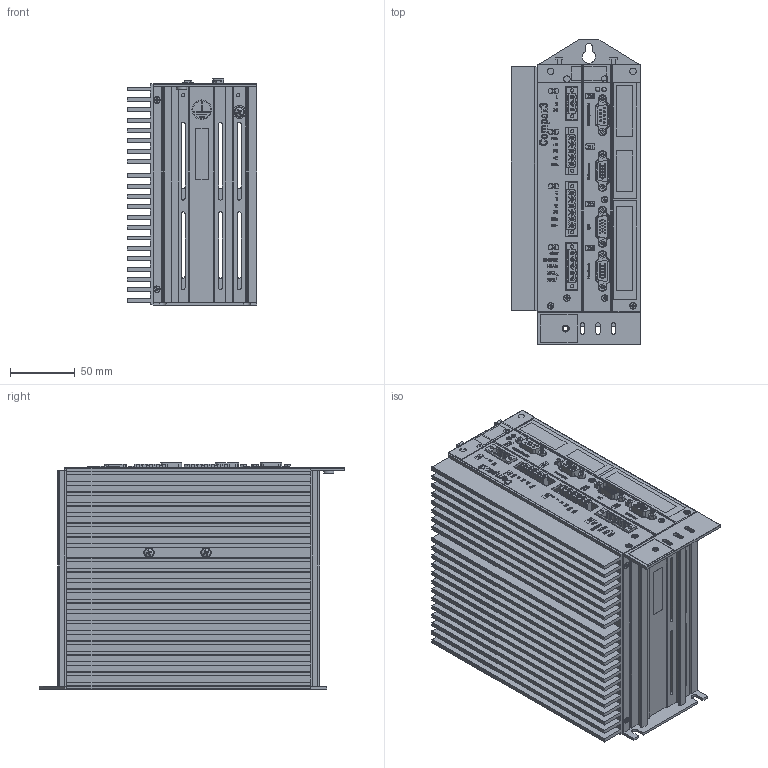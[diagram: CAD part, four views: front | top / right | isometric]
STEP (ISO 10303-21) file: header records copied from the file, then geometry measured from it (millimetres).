
FILE_DESCRIPTION((''),'2;1');
FILE_NAME('P:\Archiv\Arch_Inventor_2008\Baugruppen\Geraete\C3S063V2\Export Files\C3S063V2_N02.stp','2010-11-17T10:04:52',('tm111735'),(''),'Autodesk Inventor 2008','Autodesk Inventor 2008','');
FILE_SCHEMA(('AUTOMOTIVE_DESIGN { 1 0 10303 214 1 1 1 1 }'));
Length unit declared in the file: millimetre
Products named in the file (31): C3S063V2.iam (Detailgenauigkeit1); 7055; 7037; 7075; Li-Schraube DIN 7985 M4x8; PE_Zeichen 15mm; Aufkleber_Typ 95x36; Aufkleber_Teststatus 40x10; 7559; 7920; Einpressmutter M4; FRF09_01-C3SxxxV2; Parker_80x13,5mm; Parker Teil 1 80x13,5mm; Parker_27x10,4mm; Senkschraube DIN 965 M2,5x8; P__Archiv_Arch_PCB_CTP_CTP17_01.N03_PCB_Ctp17_01.pcb (~1); P__Archiv_Arch_PCB_CTP_CTP17_01.N03_PCB_Ctp17_01; LED6, H LED GREEN_RED 3MM WU-BD5 HOR; D_SUB 15 HD right angle female; D_SUB 09 right angle female; D_SUB 15 HD right angle male; 7029; Li-Schraube DIN 7985 M3x6; Lei21_01.pcb.iam (~1); Lei21_01.pcb_Kontur; mstb_2.5-3-gf-5.08; ic_2.5-5-gf-5.08; ic_2.5-6-gf-5.08; mstb_2.5-5-gf-5.08
Assembly tree (61 placements, depth 3):
  C3S063V2.iam (Detailgenauigkeit1)
    7055
    7037
    7075
    Li-Schraube DIN 7985 M4x8  x3
    PE_Zeichen 15mm
    Aufkleber_Typ 95x36
    Aufkleber_Teststatus 40x10
    7559
    7920
      7920
      Einpressmutter M4
    FRF09_01-C3SxxxV2
    Parker_80x13,5mm
      Parker Teil 1 80x13,5mm
      Parker_27x10,4mm
    Senkschraube DIN 965 M2,5x8  x19
    P__Archiv_Arch_PCB_CTP_CTP17_01.N03_PCB_Ctp17_01.pcb (~1)
      P__Archiv_Arch_PCB_CTP_CTP17_01.N03_PCB_Ctp17_01
      LED6, H LED GREEN_RED 3MM WU-BD5 HOR
      D_SUB 15 HD right angle female  x2
      D_SUB 09 right angle female
      D_SUB 15 HD right angle male
    7029  x6
    Li-Schraube DIN 7985 M3x6  x6
    Lei21_01.pcb.iam (~1)
      Lei21_01.pcb_Kontur
      mstb_2.5-3-gf-5.08
      ic_2.5-5-gf-5.08
      ic_2.5-6-gf-5.08
      mstb_2.5-5-gf-5.08
Bounding box: 100.1 x 236 x 174.49 mm (x, y, z)
Volume: 787195.5 mm3; surface area: 606893.4 mm2
Topology: 77 solids, 77 shells, 6503 faces, 16425 edges, 10480 vertices
Faces by surface type: plane 4472, bspline 980, cylinder 737, cone 178, sphere 91, torus 45
Full cylindrical faces by diameter (mm): 0.9 x15, 2.4 x19, 2.729 x6, 2.794 x4, 2.8 x4, 3 x8, 3.2 x14, 3.493 x2, 3.5 x10, 3.621 x3, 4 x3, 4.99 x9, 5.6 x1, 6.5 x2, 8 x2, 10 x1, 13.704 x1, 15 x1
Entity records: 179009 total; most frequent: CARTESIAN_POINT 40431, ORIENTED_EDGE 28808, DIRECTION 25318, EDGE_CURVE 14404, VECTOR 10456, LINE 10456, VERTEX_POINT 9291, AXIS2_PLACEMENT_3D 7431
